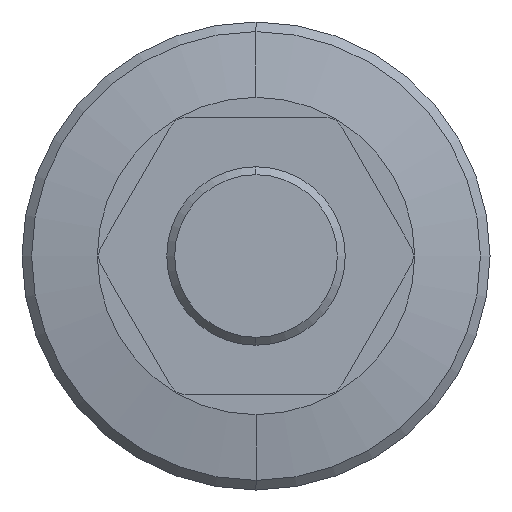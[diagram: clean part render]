
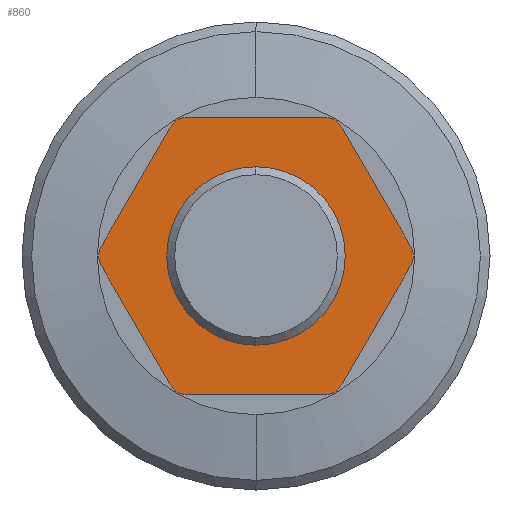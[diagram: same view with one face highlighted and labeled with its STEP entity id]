
A CAD part, left-side view. The second image highlights one B-rep face of the part: STEP entity #860.
In plain terms, the highlighted planar face has unit normal (-1, 0, 0).
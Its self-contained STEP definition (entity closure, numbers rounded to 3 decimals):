
#18 = CARTESIAN_POINT ( 'NONE',  ( 72., -21.651, 32.5 ) ) ;
#20 = DIRECTION ( 'NONE',  ( 0., 0., 1. ) ) ;
#42 = ORIENTED_EDGE ( 'NONE', *, *, #611, .T. ) ;
#54 = VERTEX_POINT ( 'NONE', #1269 ) ;
#75 = CIRCLE ( 'NONE', #1273, 5. ) ;
#105 = EDGE_CURVE ( 'NONE', #245, #957, #676, .T. ) ;
#140 = FACE_BOUND ( 'NONE', #1032, .T. ) ;
#144 = CARTESIAN_POINT ( 'NONE',  ( 72., -38.971, 2.5 ) ) ;
#157 = EDGE_CURVE ( 'NONE', #1265, #54, #342, .T. ) ;
#158 = EDGE_CURVE ( 'NONE', #635, #245, #929, .T. ) ;
#159 = LINE ( 'NONE', #1120, #757 ) ;
#207 = ORIENTED_EDGE ( 'NONE', *, *, #517, .F. ) ;
#210 = EDGE_CURVE ( 'NONE', #953, #761, #261, .T. ) ;
#227 = DIRECTION ( 'NONE',  ( 0., -1., 0. ) ) ;
#235 = AXIS2_PLACEMENT_3D ( 'NONE', #1245, #599, #1352 ) ;
#243 = VERTEX_POINT ( 'NONE', #610 ) ;
#245 = VERTEX_POINT ( 'NONE', #278 ) ;
#252 = ORIENTED_EDGE ( 'NONE', *, *, #1344, .T. ) ;
#261 = LINE ( 'NONE', #889, #1396 ) ;
#278 = CARTESIAN_POINT ( 'NONE',  ( 72., 21.651, -32.5 ) ) ;
#287 = EDGE_CURVE ( 'NONE', #770, #565, #437, .T. ) ;
#302 = ORIENTED_EDGE ( 'NONE', *, *, #157, .T. ) ;
#304 = EDGE_CURVE ( 'NONE', #54, #970, #720, .T. ) ;
#337 = VECTOR ( 'NONE', #384, 1000. ) ;
#342 = CIRCLE ( 'NONE', #542, 5. ) ;
#348 = CARTESIAN_POINT ( 'NONE',  ( 72., 0., 0. ) ) ;
#350 = CARTESIAN_POINT ( 'NONE',  ( 72., 0., 22.5 ) ) ;
#384 = DIRECTION ( 'NONE',  ( 0., 0.5, -0.866 ) ) ;
#394 = DIRECTION ( 'NONE',  ( 0., 0., 1. ) ) ;
#399 = CARTESIAN_POINT ( 'NONE',  ( 72., 0., 0. ) ) ;
#403 = DIRECTION ( 'NONE',  ( -1., 0., 0. ) ) ;
#408 = CARTESIAN_POINT ( 'NONE',  ( 72., -17.321, 30. ) ) ;
#426 = CARTESIAN_POINT ( 'NONE',  ( 72., -20.207, 35. ) ) ;
#432 = LINE ( 'NONE', #1204, #753 ) ;
#437 = CIRCLE ( 'NONE', #1363, 22.5 ) ;
#450 = ORIENTED_EDGE ( 'NONE', *, *, #158, .T. ) ;
#459 = ORIENTED_EDGE ( 'NONE', *, *, #1400, .T. ) ;
#465 = DIRECTION ( 'NONE',  ( 0., 0., 1. ) ) ;
#466 = AXIS2_PLACEMENT_3D ( 'NONE', #901, #886, #815 ) ;
#475 = ORIENTED_EDGE ( 'NONE', *, *, #1091, .T. ) ;
#495 = DIRECTION ( 'NONE',  ( 0., -0.5, -0.866 ) ) ;
#517 = EDGE_CURVE ( 'NONE', #565, #770, #793, .T. ) ;
#519 = PLANE ( 'NONE',  #1128 ) ;
#542 = AXIS2_PLACEMENT_3D ( 'NONE', #408, #403, #394 ) ;
#564 = EDGE_CURVE ( 'NONE', #957, #243, #159, .T. ) ;
#565 = VERTEX_POINT ( 'NONE', #350 ) ;
#594 = CARTESIAN_POINT ( 'NONE',  ( 72., 40.415, 0. ) ) ;
#597 = DIRECTION ( 'NONE',  ( -1., 0., 0. ) ) ;
#599 = DIRECTION ( 'NONE',  ( -1., 0., 0. ) ) ;
#601 = LINE ( 'NONE', #1046, #337 ) ;
#605 = CARTESIAN_POINT ( 'NONE',  ( 72., 0., -22.5 ) ) ;
#606 = VECTOR ( 'NONE', #495, 1000. ) ;
#610 = CARTESIAN_POINT ( 'NONE',  ( 72., -17.321, -35. ) ) ;
#611 = EDGE_CURVE ( 'NONE', #970, #1282, #978, .T. ) ;
#627 = DIRECTION ( 'NONE',  ( -1., 0., 0. ) ) ;
#632 = CARTESIAN_POINT ( 'NONE',  ( 72., -17.321, -30. ) ) ;
#635 = VERTEX_POINT ( 'NONE', #802 ) ;
#640 = CARTESIAN_POINT ( 'NONE',  ( 72., -21.651, -32.5 ) ) ;
#641 = CARTESIAN_POINT ( 'NONE',  ( 72., 0., 0. ) ) ;
#643 = VERTEX_POINT ( 'NONE', #1015 ) ;
#664 = AXIS2_PLACEMENT_3D ( 'NONE', #1244, #597, #1351 ) ;
#676 = CIRCLE ( 'NONE', #466, 5. ) ;
#688 = DIRECTION ( 'NONE',  ( -1., 0., 0. ) ) ;
#720 = LINE ( 'NONE', #426, #1299 ) ;
#722 = EDGE_CURVE ( 'NONE', #761, #723, #847, .T. ) ;
#723 = VERTEX_POINT ( 'NONE', #144 ) ;
#739 = ORIENTED_EDGE ( 'NONE', *, *, #722, .T. ) ;
#741 = DIRECTION ( 'NONE',  ( 0., 0., 1. ) ) ;
#746 = DIRECTION ( 'NONE',  ( 0., 0., 1. ) ) ;
#753 = VECTOR ( 'NONE', #767, 1000. ) ;
#757 = VECTOR ( 'NONE', #227, 1000. ) ;
#761 = VERTEX_POINT ( 'NONE', #1152 ) ;
#767 = DIRECTION ( 'NONE',  ( 0., 0.5, 0.866 ) ) ;
#770 = VERTEX_POINT ( 'NONE', #605 ) ;
#793 = CIRCLE ( 'NONE', #836, 22.5 ) ;
#802 = CARTESIAN_POINT ( 'NONE',  ( 72., 38.971, -2.5 ) ) ;
#815 = DIRECTION ( 'NONE',  ( 0., 0., 1. ) ) ;
#836 = AXIS2_PLACEMENT_3D ( 'NONE', #348, #1114, #465 ) ;
#847 = CIRCLE ( 'NONE', #235, 5. ) ;
#860 = ADVANCED_FACE ( 'NONE', ( #992, #140 ), #519, .T. ) ;
#886 = DIRECTION ( 'NONE',  ( -1., 0., 0. ) ) ;
#889 = CARTESIAN_POINT ( 'NONE',  ( 72., -20.207, -35. ) ) ;
#893 = DIRECTION ( 'NONE',  ( 0., -0.5, 0.866 ) ) ;
#901 = CARTESIAN_POINT ( 'NONE',  ( 72., 17.321, -30. ) ) ;
#928 = EDGE_CURVE ( 'NONE', #243, #953, #75, .T. ) ;
#929 = LINE ( 'NONE', #594, #606 ) ;
#953 = VERTEX_POINT ( 'NONE', #640 ) ;
#957 = VERTEX_POINT ( 'NONE', #1385 ) ;
#970 = VERTEX_POINT ( 'NONE', #1394 ) ;
#978 = CIRCLE ( 'NONE', #1087, 5. ) ;
#982 = ORIENTED_EDGE ( 'NONE', *, *, #287, .F. ) ;
#991 = CIRCLE ( 'NONE', #664, 5. ) ;
#992 = FACE_OUTER_BOUND ( 'NONE', #1133, .T. ) ;
#1015 = CARTESIAN_POINT ( 'NONE',  ( 72., 38.971, 2.5 ) ) ;
#1032 = EDGE_LOOP ( 'NONE', ( #207, #982 ) ) ;
#1046 = CARTESIAN_POINT ( 'NONE',  ( 72., 20.207, 35. ) ) ;
#1075 = DIRECTION ( 'NONE',  ( 0., 1., 0. ) ) ;
#1087 = AXIS2_PLACEMENT_3D ( 'NONE', #1329, #688, #20 ) ;
#1091 = EDGE_CURVE ( 'NONE', #723, #1265, #432, .T. ) ;
#1114 = DIRECTION ( 'NONE',  ( -1., 0., 0. ) ) ;
#1120 = CARTESIAN_POINT ( 'NONE',  ( 72., 20.207, -35. ) ) ;
#1124 = CARTESIAN_POINT ( 'NONE',  ( 72., 21.651, 32.5 ) ) ;
#1128 = AXIS2_PLACEMENT_3D ( 'NONE', #399, #627, #1374 ) ;
#1133 = EDGE_LOOP ( 'NONE', ( #1381, #739, #475, #302, #1239, #42, #459, #252, #450, #1200, #1207, #1142 ) ) ;
#1142 = ORIENTED_EDGE ( 'NONE', *, *, #928, .T. ) ;
#1152 = CARTESIAN_POINT ( 'NONE',  ( 72., -38.971, -2.5 ) ) ;
#1200 = ORIENTED_EDGE ( 'NONE', *, *, #105, .T. ) ;
#1204 = CARTESIAN_POINT ( 'NONE',  ( 72., -40.415, 0. ) ) ;
#1207 = ORIENTED_EDGE ( 'NONE', *, *, #564, .T. ) ;
#1239 = ORIENTED_EDGE ( 'NONE', *, *, #304, .T. ) ;
#1244 = CARTESIAN_POINT ( 'NONE',  ( 72., 34.641, 0. ) ) ;
#1245 = CARTESIAN_POINT ( 'NONE',  ( 72., -34.641, 0. ) ) ;
#1265 = VERTEX_POINT ( 'NONE', #18 ) ;
#1269 = CARTESIAN_POINT ( 'NONE',  ( 72., -17.321, 35. ) ) ;
#1273 = AXIS2_PLACEMENT_3D ( 'NONE', #632, #1384, #741 ) ;
#1282 = VERTEX_POINT ( 'NONE', #1124 ) ;
#1299 = VECTOR ( 'NONE', #1075, 1000. ) ;
#1329 = CARTESIAN_POINT ( 'NONE',  ( 72., 17.321, 30. ) ) ;
#1344 = EDGE_CURVE ( 'NONE', #643, #635, #991, .T. ) ;
#1351 = DIRECTION ( 'NONE',  ( 0., 0., 1. ) ) ;
#1352 = DIRECTION ( 'NONE',  ( 0., 0., 1. ) ) ;
#1363 = AXIS2_PLACEMENT_3D ( 'NONE', #641, #1389, #746 ) ;
#1374 = DIRECTION ( 'NONE',  ( 0., 0., 1. ) ) ;
#1381 = ORIENTED_EDGE ( 'NONE', *, *, #210, .T. ) ;
#1384 = DIRECTION ( 'NONE',  ( -1., 0., 0. ) ) ;
#1385 = CARTESIAN_POINT ( 'NONE',  ( 72., 17.321, -35. ) ) ;
#1389 = DIRECTION ( 'NONE',  ( -1., 0., 0. ) ) ;
#1394 = CARTESIAN_POINT ( 'NONE',  ( 72., 17.321, 35. ) ) ;
#1396 = VECTOR ( 'NONE', #893, 1000. ) ;
#1400 = EDGE_CURVE ( 'NONE', #1282, #643, #601, .T. ) ;
